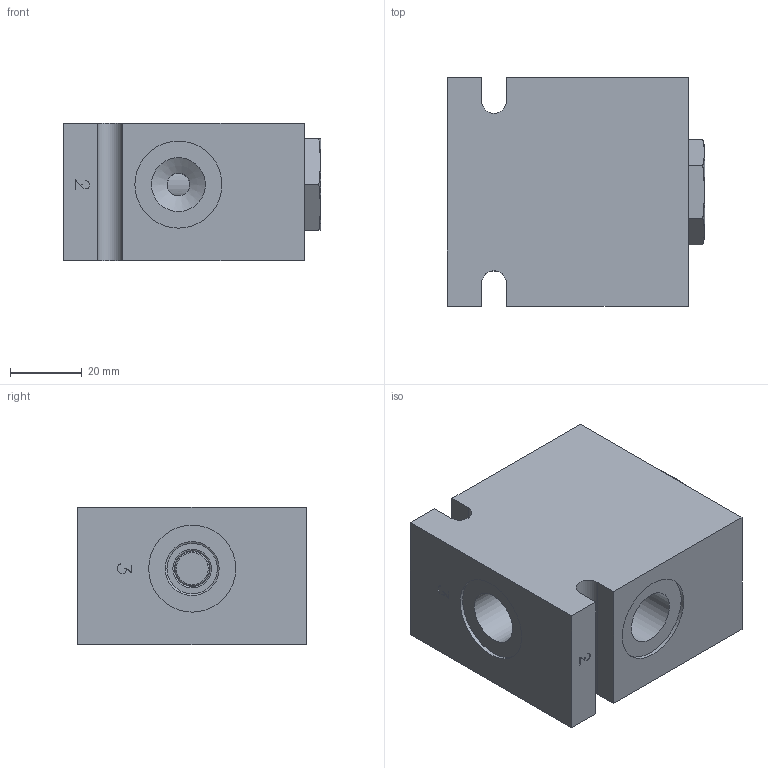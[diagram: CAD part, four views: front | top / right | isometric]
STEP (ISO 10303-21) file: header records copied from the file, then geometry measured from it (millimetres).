
FILE_DESCRIPTION( ( 'Unknown' ), '1' );
FILE_NAME( 'G:/Graphic Design/Graphic Design 2/Data Sheets/MANUAL_MECH OPERATED VALVES/3_PDF/Pilot to Open Check Valves/D-DFCPB00-B3.stp', 'Unknown', ( 'Unknown' ), ( 'Unknown' ), 'PSStep 16.0.42', 'Unknown', ' ' );
FILE_SCHEMA( ( 'AUTOMOTIVE_DESIGN { 1 0 10303 214 1 1 1 1 }' ) );
Length unit declared in the file: millimetre
Products named in the file (11): DFCPB00; DFCPB00-3D Full1; DFCPB00-3D Full2; DFCPB00-3D Full3; DFCPB00-3D Full4; DFCPB00-3D Full5; DFCPB00-3D Full6; DFCPB00-3D Full7; DFCPB00-3D Full8; Assem1; B-DDFB3
Assembly tree (10 placements, depth 3):
  Assem1
    B-DDFB3
    DFCPB00
      DFCPB00-3D Full1
      DFCPB00-3D Full2
      DFCPB00-3D Full3
      DFCPB00-3D Full4
      DFCPB00-3D Full5
      DFCPB00-3D Full6
      DFCPB00-3D Full7
      DFCPB00-3D Full8
Bounding box: 71.56 x 63.5 x 38.1 mm (x, y, z)
Surface area: 31660.3 mm2 (no closed solid volume)
Topology: 0 solids, 229 shells, 229 faces, 940 edges, 846 vertices
Faces by surface type: plane 128, cylinder 56, cone 37, torus 8
Full cylindrical faces by diameter (mm): 0.2 x3, 3.175 x12, 6.3 x1, 9.601 x1, 10.718 x1, 13.005 x1, 13.513 x2, 14 x2, 14.275 x1, 14.63 x1, 15 x6, 15.138 x2, 15.761 x2, 15.875 x2, 15.926 x1, 16.256 x2, 17.323 x1, 17.374 x2, 17.526 x1, 17.527 x1, 17.882 x2, 19.622 x1, 20.262 x2, 24.2 x3, 30.175 x1
Entity records: 12078 total; most frequent: CARTESIAN_POINT 3730, DIRECTION 1220, VERTEX_POINT 823, ORIENTED_EDGE 820, EDGE_CURVE 820, AXIS2_PLACEMENT_3D 505, FACE_BOUND 353, EDGE_LOOP 350
